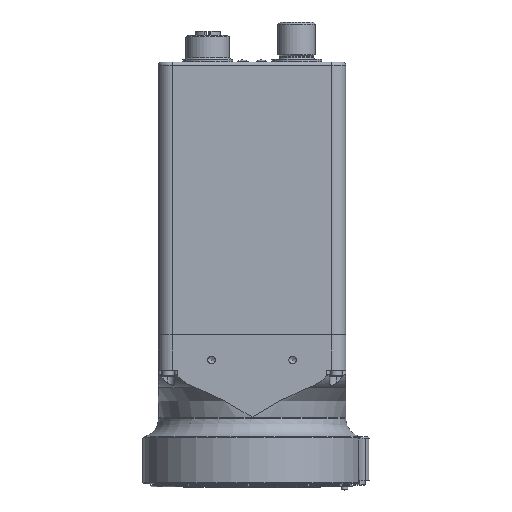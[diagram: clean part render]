
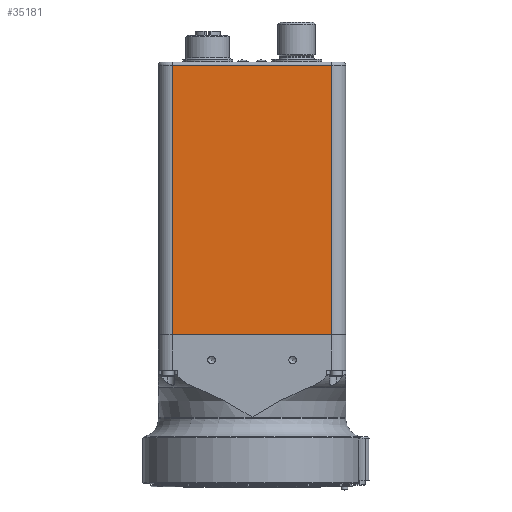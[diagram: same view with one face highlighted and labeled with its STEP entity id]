
A CAD part, top view. The second image highlights one B-rep face of the part: STEP entity #35181.
In plain terms, the highlighted planar face has unit normal (0, 0, 1).
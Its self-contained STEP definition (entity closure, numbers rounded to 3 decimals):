
#1087=PLANE('',#37854);
#1272=LINE('',#46299,#2691);
#2148=LINE('',#52704,#3567);
#2333=LINE('',#54251,#3752);
#2334=LINE('',#54253,#3753);
#2691=VECTOR('',#38761,1000.);
#3567=VECTOR('',#43313,1000.);
#3752=VECTOR('',#44158,1000.);
#3753=VECTOR('',#44161,1000.);
#8381=ORIENTED_EDGE('',*,*,#12510,.F.);
#8382=ORIENTED_EDGE('',*,*,#12168,.T.);
#8383=ORIENTED_EDGE('',*,*,#12509,.T.);
#8384=ORIENTED_EDGE('',*,*,#10289,.T.);
#10289=EDGE_CURVE('',#13350,#13349,#1272,.T.);
#12168=EDGE_CURVE('',#14774,#14773,#2148,.F.);
#12509=EDGE_CURVE('',#14773,#13350,#2333,.T.);
#12510=EDGE_CURVE('',#14774,#13349,#2334,.T.);
#13349=VERTEX_POINT('',#46298);
#13350=VERTEX_POINT('',#46300);
#14773=VERTEX_POINT('',#52701);
#14774=VERTEX_POINT('',#52705);
#18647=EDGE_LOOP('',(#8381,#8382,#8383,#8384));
#21102=FACE_BOUND('',#18647,.T.);
#35181=ADVANCED_FACE('',(#21102),#1087,.F.);
#37854=AXIS2_PLACEMENT_3D('',#54252,#44159,#44160);
#38761=DIRECTION('',(1.,0.,0.));
#43313=DIRECTION('',(1.,0.,0.));
#44158=DIRECTION('',(0.,-1.,0.));
#44159=DIRECTION('',(0.,0.,-1.));
#44160=DIRECTION('',(0.,1.,0.));
#44161=DIRECTION('',(0.,-1.,0.));
#46298=CARTESIAN_POINT('',(25.487,0.505,29.988));
#46299=CARTESIAN_POINT('',(-25.488,0.505,29.988));
#46300=CARTESIAN_POINT('',(-25.488,0.505,29.988));
#52701=CARTESIAN_POINT('',(-25.488,86.805,29.988));
#52704=CARTESIAN_POINT('',(-25.488,86.805,29.988));
#52705=CARTESIAN_POINT('',(25.487,86.805,29.988));
#54251=CARTESIAN_POINT('',(-25.488,87.805,29.988));
#54252=CARTESIAN_POINT('',(-25.488,87.805,29.988));
#54253=CARTESIAN_POINT('',(25.487,87.805,29.988));
